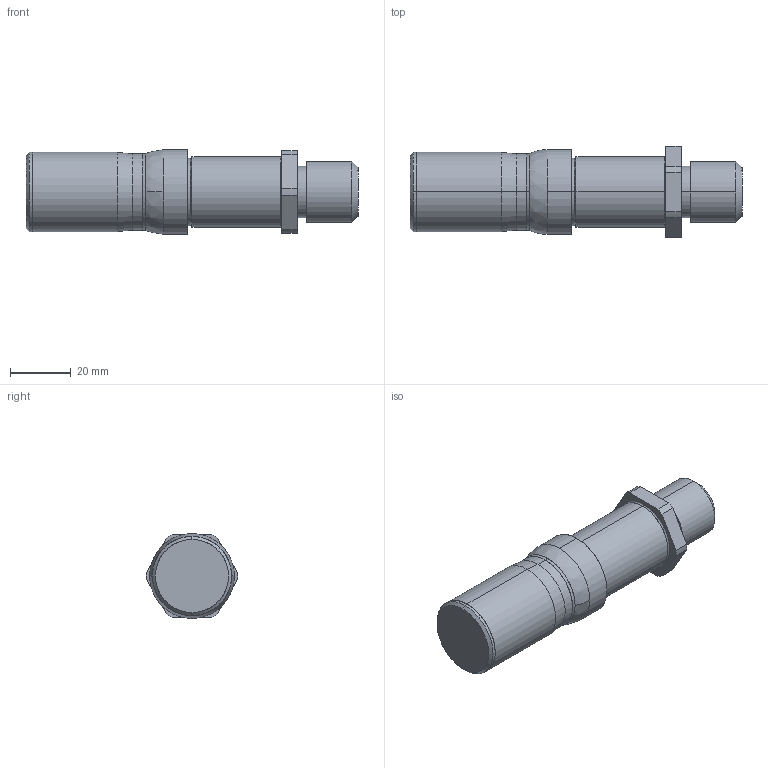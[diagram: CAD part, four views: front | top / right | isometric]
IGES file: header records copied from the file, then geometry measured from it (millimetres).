
Start section: SolidWorks IGES file using analytic representation for surfaces
Global section: file name: Z:\7-3D図面\02.3Dデータ(提出用)\電子カタログ\Ｓ／Ａ\FES\FES-2030.IGS; native system: SolidWorks 2015; preprocessor: SolidWorks 2015; author: flgijutsu02; date: 150615.134438; units: millimetre
Bounding box: 109 x 29.99 x 27.8 mm (x, y, z)
Surface area: 11291.7 mm2 (no closed solid volume)
Topology: 0 solids, 0 shells, 55 faces, 696 edges, 696 vertices
Faces by surface type: revolution 36, bspline 19
